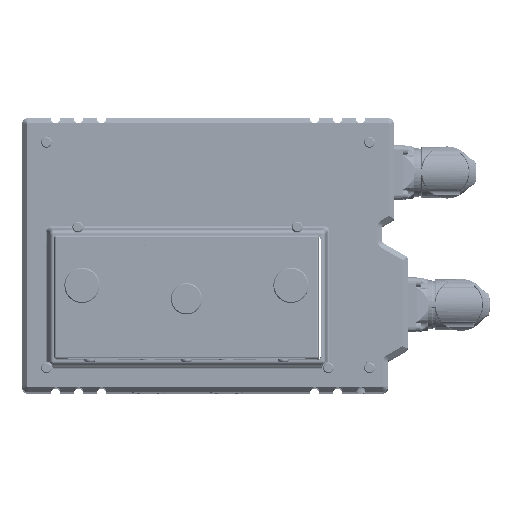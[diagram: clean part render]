
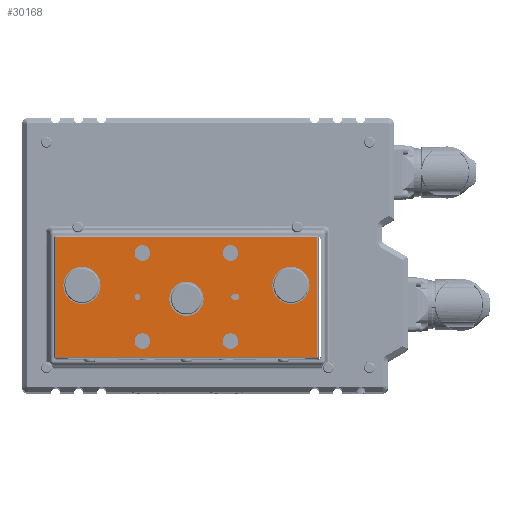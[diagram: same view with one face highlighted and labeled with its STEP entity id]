
A CAD part, top view. The second image highlights one B-rep face of the part: STEP entity #30168.
In plain terms, the highlighted planar face has unit normal (0, 0, 1).
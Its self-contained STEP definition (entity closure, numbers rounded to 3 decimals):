
#29254=CARTESIAN_POINT('',(-22.5,-22.5,19.05));
#29255=DIRECTION('',(0.,0.,-1.));
#29256=DIRECTION('',(-1.,0.,0.));
#29257=AXIS2_PLACEMENT_3D('',#29254,#29255,#29256);
#29259=CARTESIAN_POINT('',(-22.5,-22.5,19.05));
#29260=DIRECTION('',(0.,0.,-1.));
#29261=DIRECTION('',(1.,0.,0.));
#29262=AXIS2_PLACEMENT_3D('',#29259,#29260,#29261);
#29264=CARTESIAN_POINT('',(22.5,-22.5,19.05));
#29265=DIRECTION('',(0.,0.,-1.));
#29266=DIRECTION('',(-1.,0.,0.));
#29267=AXIS2_PLACEMENT_3D('',#29264,#29265,#29266);
#29269=CARTESIAN_POINT('',(22.5,-22.5,19.05));
#29270=DIRECTION('',(0.,0.,-1.));
#29271=DIRECTION('',(1.,0.,0.));
#29272=AXIS2_PLACEMENT_3D('',#29269,#29270,#29271);
#29274=CARTESIAN_POINT('',(-22.5,22.5,19.05));
#29275=DIRECTION('',(0.,0.,-1.));
#29276=DIRECTION('',(-1.,0.,0.));
#29277=AXIS2_PLACEMENT_3D('',#29274,#29275,#29276);
#29279=CARTESIAN_POINT('',(-22.5,22.5,19.05));
#29280=DIRECTION('',(0.,0.,-1.));
#29281=DIRECTION('',(1.,0.,0.));
#29282=AXIS2_PLACEMENT_3D('',#29279,#29280,#29281);
#29284=CARTESIAN_POINT('',(22.5,22.5,19.05));
#29285=DIRECTION('',(0.,0.,-1.));
#29286=DIRECTION('',(-1.,0.,0.));
#29287=AXIS2_PLACEMENT_3D('',#29284,#29285,#29286);
#29289=CARTESIAN_POINT('',(22.5,22.5,19.05));
#29290=DIRECTION('',(0.,0.,-1.));
#29291=DIRECTION('',(1.,0.,0.));
#29292=AXIS2_PLACEMENT_3D('',#29289,#29290,#29291);
#29294=CARTESIAN_POINT('',(53.375,5.995,19.05));
#29295=DIRECTION('',(0.,0.,1.));
#29296=DIRECTION('',(-1.,0.,0.));
#29297=AXIS2_PLACEMENT_3D('',#29294,#29295,#29296);
#29299=CARTESIAN_POINT('',(53.375,5.995,19.05));
#29300=DIRECTION('',(0.,0.,1.));
#29301=DIRECTION('',(1.,0.,0.));
#29302=AXIS2_PLACEMENT_3D('',#29299,#29300,#29301);
#29304=CARTESIAN_POINT('',(-53.375,5.995,19.05));
#29305=DIRECTION('',(0.,0.,1.));
#29306=DIRECTION('',(-1.,0.,0.));
#29307=AXIS2_PLACEMENT_3D('',#29304,#29305,#29306);
#29309=CARTESIAN_POINT('',(-53.375,5.995,19.05));
#29310=DIRECTION('',(0.,0.,1.));
#29311=DIRECTION('',(1.,0.,0.));
#29312=AXIS2_PLACEMENT_3D('',#29309,#29310,#29311);
#29314=DIRECTION('',(0.,1.,0.));
#29315=VECTOR('',#29314,61.);
#29316=CARTESIAN_POINT('',(66.5,-30.5,19.05));
#29317=LINE('',#29316,#29315);
#29318=DIRECTION('',(1.,0.,0.));
#29319=VECTOR('',#29318,133.);
#29320=CARTESIAN_POINT('',(-66.5,-30.5,19.05));
#29321=LINE('',#29320,#29319);
#29322=DIRECTION('',(0.,-1.,0.));
#29323=VECTOR('',#29322,61.);
#29324=CARTESIAN_POINT('',(-66.5,30.5,19.05));
#29325=LINE('',#29324,#29323);
#29326=DIRECTION('',(-1.,0.,0.));
#29327=VECTOR('',#29326,133.);
#29328=CARTESIAN_POINT('',(66.5,30.5,19.05));
#29329=LINE('',#29328,#29327);
#29330=CARTESIAN_POINT('',(0.,-0.881,19.05));
#29331=DIRECTION('',(0.,0.,1.));
#29332=DIRECTION('',(-1.,0.,0.));
#29333=AXIS2_PLACEMENT_3D('',#29330,#29331,#29332);
#29335=CARTESIAN_POINT('',(0.,-0.881,19.05));
#29336=DIRECTION('',(0.,0.,1.));
#29337=DIRECTION('',(1.,0.,0.));
#29338=AXIS2_PLACEMENT_3D('',#29335,#29336,#29337);
#29340=CARTESIAN_POINT('',(-25.,0.,19.05));
#29341=DIRECTION('',(0.,0.,-1.));
#29342=DIRECTION('',(-1.,0.,0.));
#29343=AXIS2_PLACEMENT_3D('',#29340,#29341,#29342);
#29345=CARTESIAN_POINT('',(-25.,0.,19.05));
#29346=DIRECTION('',(0.,0.,-1.));
#29347=DIRECTION('',(1.,0.,0.));
#29348=AXIS2_PLACEMENT_3D('',#29345,#29346,#29347);
#29350=CARTESIAN_POINT('',(24.5,0.,19.05));
#29351=DIRECTION('',(0.,0.,1.));
#29352=DIRECTION('',(0.,1.,0.));
#29353=AXIS2_PLACEMENT_3D('',#29350,#29351,#29352);
#29355=DIRECTION('',(1.,0.,0.));
#29356=VECTOR('',#29355,1.);
#29357=CARTESIAN_POINT('',(24.5,-1.519,19.05));
#29358=LINE('',#29357,#29356);
#29359=CARTESIAN_POINT('',(25.5,0.,19.05));
#29360=DIRECTION('',(0.,0.,1.));
#29361=DIRECTION('',(0.,-1.,0.));
#29362=AXIS2_PLACEMENT_3D('',#29359,#29360,#29361);
#29364=DIRECTION('',(-1.,0.,0.));
#29365=VECTOR('',#29364,1.);
#29366=CARTESIAN_POINT('',(25.5,1.519,19.05));
#29367=LINE('',#29366,#29365);
#29823=CARTESIAN_POINT('',(-26.5,-22.5,19.05));
#29824=CARTESIAN_POINT('',(-18.5,-22.5,19.05));
#29825=VERTEX_POINT('',#29823);
#29826=VERTEX_POINT('',#29824);
#29831=CARTESIAN_POINT('',(18.5,-22.5,19.05));
#29832=CARTESIAN_POINT('',(26.5,-22.5,19.05));
#29833=VERTEX_POINT('',#29831);
#29834=VERTEX_POINT('',#29832);
#29863=CARTESIAN_POINT('',(66.5,-30.5,19.05));
#29864=CARTESIAN_POINT('',(66.5,30.5,19.05));
#29865=VERTEX_POINT('',#29863);
#29866=VERTEX_POINT('',#29864);
#29871=CARTESIAN_POINT('',(-66.5,30.5,19.05));
#29872=VERTEX_POINT('',#29871);
#29877=CARTESIAN_POINT('',(-66.5,-30.5,19.05));
#29878=VERTEX_POINT('',#29877);
#29899=CARTESIAN_POINT('',(43.875,5.995,19.05));
#29900=CARTESIAN_POINT('',(62.875,5.995,19.05));
#29901=VERTEX_POINT('',#29899);
#29902=VERTEX_POINT('',#29900);
#29903=CARTESIAN_POINT('',(-62.875,5.995,19.05));
#29904=CARTESIAN_POINT('',(-43.875,5.995,19.05));
#29905=VERTEX_POINT('',#29903);
#29906=VERTEX_POINT('',#29904);
#29911=CARTESIAN_POINT('',(-26.5,22.5,19.05));
#29912=CARTESIAN_POINT('',(-18.5,22.5,19.05));
#29913=VERTEX_POINT('',#29911);
#29914=VERTEX_POINT('',#29912);
#29919=CARTESIAN_POINT('',(18.5,22.5,19.05));
#29920=CARTESIAN_POINT('',(26.5,22.5,19.05));
#29921=VERTEX_POINT('',#29919);
#29922=VERTEX_POINT('',#29920);
#29959=CARTESIAN_POINT('',(-8.75,-0.881,19.05));
#29960=CARTESIAN_POINT('',(8.75,-0.881,19.05));
#29961=VERTEX_POINT('',#29959);
#29962=VERTEX_POINT('',#29960);
#29967=CARTESIAN_POINT('',(-26.519,0.,19.05));
#29968=CARTESIAN_POINT('',(-23.481,0.,19.05));
#29969=VERTEX_POINT('',#29967);
#29970=VERTEX_POINT('',#29968);
#29979=CARTESIAN_POINT('',(24.5,1.519,19.05));
#29980=CARTESIAN_POINT('',(24.5,-1.519,19.05));
#29981=VERTEX_POINT('',#29979);
#29982=VERTEX_POINT('',#29980);
#29983=CARTESIAN_POINT('',(25.5,-1.519,19.05));
#29984=VERTEX_POINT('',#29983);
#29985=CARTESIAN_POINT('',(25.5,1.519,19.05));
#29986=VERTEX_POINT('',#29985);
#30096=CARTESIAN_POINT('',(0.,0.,19.05));
#30097=DIRECTION('',(0.,0.,1.));
#30098=DIRECTION('',(1.,0.,0.));
#30099=AXIS2_PLACEMENT_3D('',#30096,#30097,#30098);
#30100=PLANE('',#30099);
#30102=ORIENTED_EDGE('',*,*,#30101,.F.);
#30104=ORIENTED_EDGE('',*,*,#30103,.F.);
#30106=ORIENTED_EDGE('',*,*,#30105,.F.);
#30108=ORIENTED_EDGE('',*,*,#30107,.F.);
#30109=EDGE_LOOP('',(#30102,#30104,#30106,#30108));
#30110=FACE_OUTER_BOUND('',#30109,.F.);
#30112=ORIENTED_EDGE('',*,*,#30111,.F.);
#30114=ORIENTED_EDGE('',*,*,#30113,.F.);
#30115=EDGE_LOOP('',(#30112,#30114));
#30116=FACE_BOUND('',#30115,.F.);
#30118=ORIENTED_EDGE('',*,*,#30117,.F.);
#30120=ORIENTED_EDGE('',*,*,#30119,.F.);
#30121=EDGE_LOOP('',(#30118,#30120));
#30122=FACE_BOUND('',#30121,.F.);
#30124=ORIENTED_EDGE('',*,*,#30123,.F.);
#30126=ORIENTED_EDGE('',*,*,#30125,.F.);
#30127=EDGE_LOOP('',(#30124,#30126));
#30128=FACE_BOUND('',#30127,.F.);
#30130=ORIENTED_EDGE('',*,*,#30129,.F.);
#30132=ORIENTED_EDGE('',*,*,#30131,.F.);
#30133=EDGE_LOOP('',(#30130,#30132));
#30134=FACE_BOUND('',#30133,.F.);
#30135=ORIENTED_EDGE('',*,*,#30086,.T.);
#30137=ORIENTED_EDGE('',*,*,#30136,.T.);
#30138=EDGE_LOOP('',(#30135,#30137));
#30139=FACE_BOUND('',#30138,.F.);
#30141=ORIENTED_EDGE('',*,*,#30140,.T.);
#30143=ORIENTED_EDGE('',*,*,#30142,.T.);
#30144=EDGE_LOOP('',(#30141,#30143));
#30145=FACE_BOUND('',#30144,.F.);
#30147=ORIENTED_EDGE('',*,*,#30146,.T.);
#30149=ORIENTED_EDGE('',*,*,#30148,.T.);
#30150=EDGE_LOOP('',(#30147,#30149));
#30151=FACE_BOUND('',#30150,.F.);
#30153=ORIENTED_EDGE('',*,*,#30152,.F.);
#30155=ORIENTED_EDGE('',*,*,#30154,.F.);
#30156=EDGE_LOOP('',(#30153,#30155));
#30157=FACE_BOUND('',#30156,.F.);
#30159=ORIENTED_EDGE('',*,*,#30158,.T.);
#30161=ORIENTED_EDGE('',*,*,#30160,.T.);
#30163=ORIENTED_EDGE('',*,*,#30162,.T.);
#30165=ORIENTED_EDGE('',*,*,#30164,.T.);
#30166=EDGE_LOOP('',(#30159,#30161,#30163,#30165));
#30167=FACE_BOUND('',#30166,.F.);
#30168=ADVANCED_FACE('',(#30110,#30116,#30122,#30128,#30134,#30139,#30145,
#30151,#30157,#30167),#30100,.T.);
#29258=CIRCLE('',#29257,4.);
#29263=CIRCLE('',#29262,4.);
#29268=CIRCLE('',#29267,4.);
#29273=CIRCLE('',#29272,4.);
#29278=CIRCLE('',#29277,4.);
#29283=CIRCLE('',#29282,4.);
#29288=CIRCLE('',#29287,4.);
#29293=CIRCLE('',#29292,4.);
#29298=CIRCLE('',#29297,9.5);
#29303=CIRCLE('',#29302,9.5);
#29308=CIRCLE('',#29307,9.5);
#29313=CIRCLE('',#29312,9.5);
#29334=CIRCLE('',#29333,8.75);
#29339=CIRCLE('',#29338,8.75);
#29344=CIRCLE('',#29343,1.519);
#29349=CIRCLE('',#29348,1.519);
#29354=CIRCLE('',#29353,1.519);
#29363=CIRCLE('',#29362,1.519);
#30086=EDGE_CURVE('',#29901,#29902,#29298,.T.);
#30101=EDGE_CURVE('',#29865,#29866,#29317,.T.);
#30103=EDGE_CURVE('',#29878,#29865,#29321,.T.);
#30105=EDGE_CURVE('',#29872,#29878,#29325,.T.);
#30107=EDGE_CURVE('',#29866,#29872,#29329,.T.);
#30111=EDGE_CURVE('',#29825,#29826,#29258,.T.);
#30113=EDGE_CURVE('',#29826,#29825,#29263,.T.);
#30117=EDGE_CURVE('',#29833,#29834,#29268,.T.);
#30119=EDGE_CURVE('',#29834,#29833,#29273,.T.);
#30123=EDGE_CURVE('',#29913,#29914,#29278,.T.);
#30125=EDGE_CURVE('',#29914,#29913,#29283,.T.);
#30129=EDGE_CURVE('',#29921,#29922,#29288,.T.);
#30131=EDGE_CURVE('',#29922,#29921,#29293,.T.);
#30136=EDGE_CURVE('',#29902,#29901,#29303,.T.);
#30140=EDGE_CURVE('',#29905,#29906,#29308,.T.);
#30142=EDGE_CURVE('',#29906,#29905,#29313,.T.);
#30146=EDGE_CURVE('',#29961,#29962,#29334,.T.);
#30148=EDGE_CURVE('',#29962,#29961,#29339,.T.);
#30152=EDGE_CURVE('',#29969,#29970,#29344,.T.);
#30154=EDGE_CURVE('',#29970,#29969,#29349,.T.);
#30158=EDGE_CURVE('',#29981,#29982,#29354,.T.);
#30160=EDGE_CURVE('',#29982,#29984,#29358,.T.);
#30162=EDGE_CURVE('',#29984,#29986,#29363,.T.);
#30164=EDGE_CURVE('',#29986,#29981,#29367,.T.);
